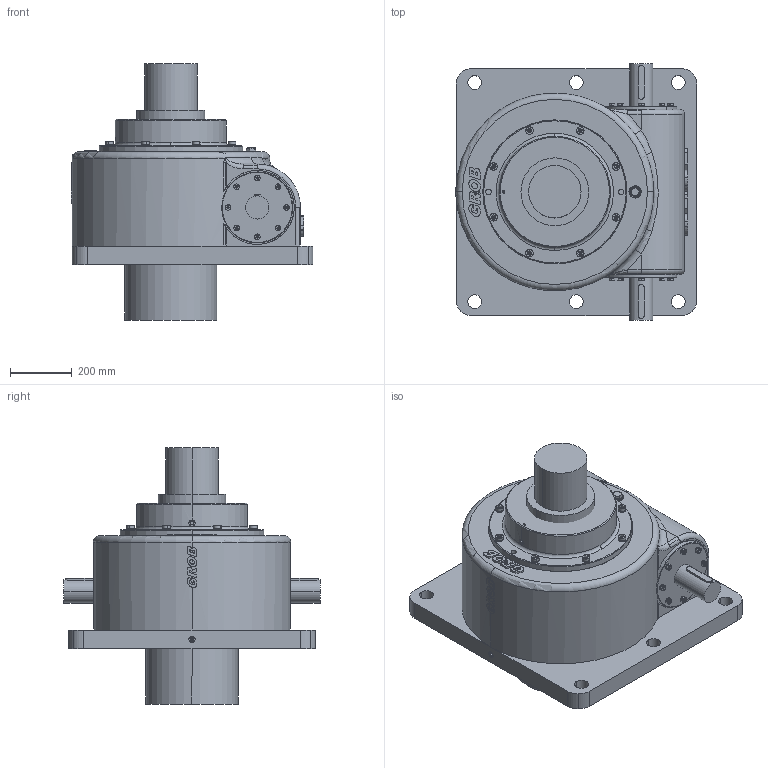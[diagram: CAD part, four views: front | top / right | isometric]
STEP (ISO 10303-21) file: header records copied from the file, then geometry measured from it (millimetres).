
FILE_DESCRIPTION(('STEP AP203'),'1');
FILE_NAME('mc200-gn-f-1f-ge-0100-0000-tr220x28-ab-o_0.stp','2023-12-18T13:35:05',('TraceParts'),('TraceParts S.A.'),'Spatial InterOp 3D',' ',' ');
FILE_SCHEMA(('CONFIG_CONTROL_DESIGN'));
Length unit declared in the file: millimetre
Products named in the file (1): 1
Bounding box: 783 x 830 x 830 mm (x, y, z)
Volume: 209699275.9 mm3; surface area: 4053399.6 mm2
Topology: 39 solids, 39 shells, 2181 faces, 5605 edges, 3520 vertices
Faces by surface type: cylinder 1011, plane 777, cone 340, torus 44, bspline 9
Entity records: 68243 total; most frequent: CARTESIAN_POINT 14927, DIRECTION 11781, ORIENTED_EDGE 10942, EDGE_CURVE 5471, AXIS2_PLACEMENT_3D 4688, VERTEX_POINT 3520, EDGE_LOOP 2461, LINE 2405
